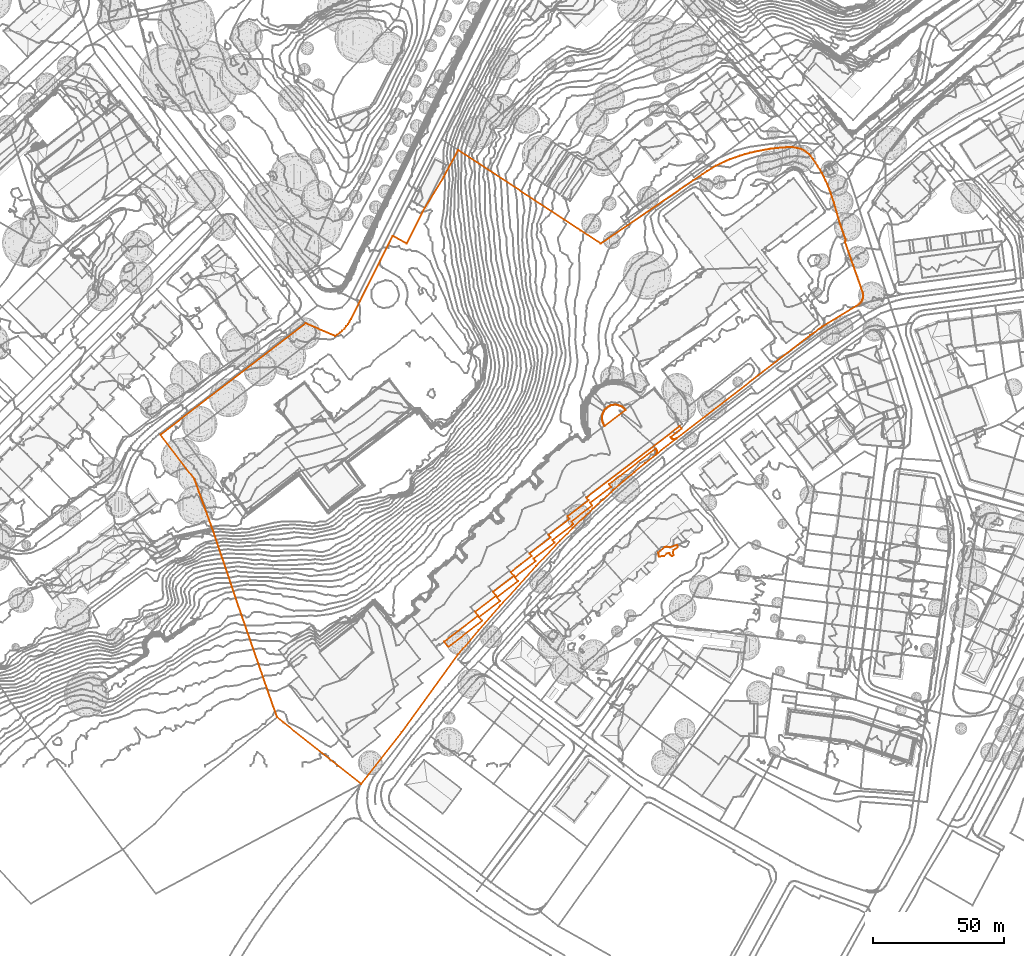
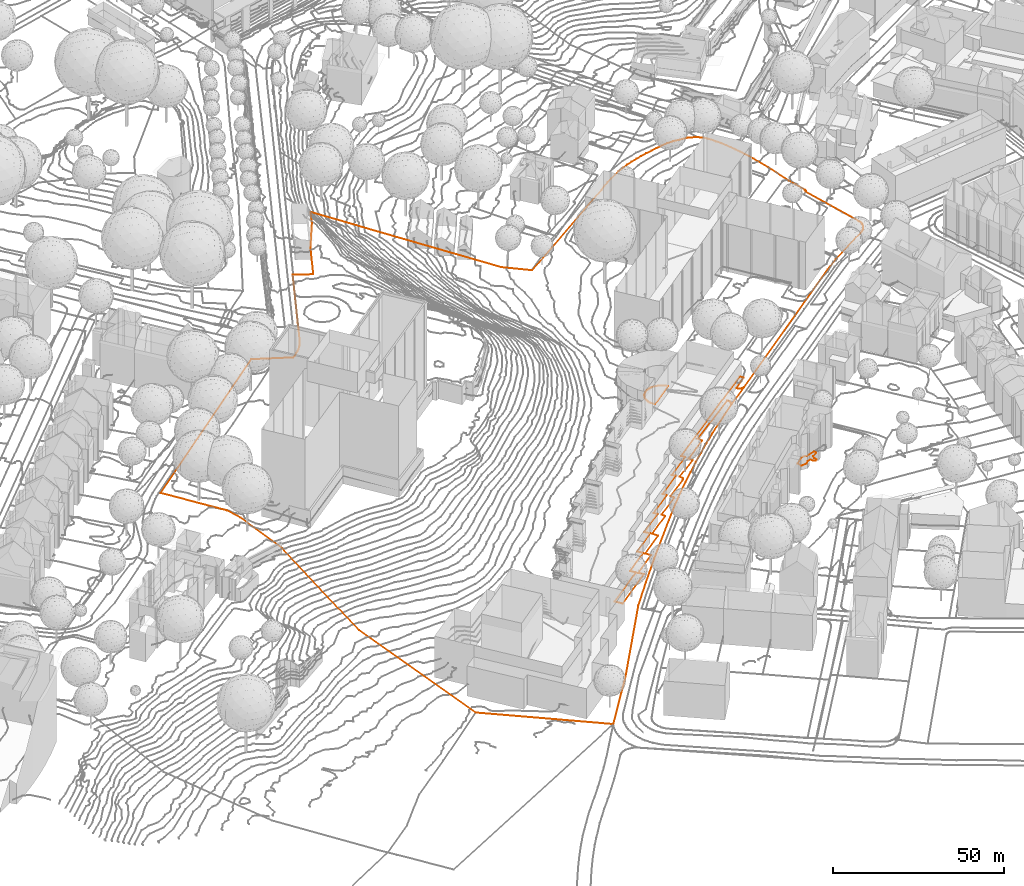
# Not in any storey, part 127 of 477: 2 civil elements, 2 geographic elements.
"""IFC4 model written with IfcOpenShell, lengths in metres."""

import ifcopenshell
import ifcopenshell.guid

model = None  # the IFC model being written
_history = None  # IfcOwnerHistory: only IFC2X3 demands one
_inside = {}  # id of a spatial element -> (the spatial element, [elements in it])
_under = {}  # id of a project, library or spatial element -> (it, [spatial elements below it])
_declared = {}  # id of a project -> (the project, [libraries it declares])
_typed = {}  # id of a type object -> (the type object, [elements of that type])
_made_of = {}  # id of a material, layer set ... -> (it, [elements and type objects made of it])


def new_model(schema):
    """Start an empty IFC model of exactly this schema.

    Asked for "IFC4X3", IfcOpenShell would pick the latest addendum, in which some entities
    have other attributes; the version numbers below select the first issue.
    IFC2X3 requires an IfcOwnerHistory on every rooted entity: one is made here for all.
    """
    global model, _history
    if schema == "IFC4X3":
        model = ifcopenshell.file(schema_version=(4, 3, 0, 0))
    else:
        model = ifcopenshell.file(schema=schema)
    _inside.clear()
    _under.clear()
    _declared.clear()
    _typed.clear()
    _made_of.clear()
    _history = None
    if model.schema == "IFC2X3":
        org = make("IfcOrganization", Name="unknown")
        user = make(
            "IfcPersonAndOrganization",
            ThePerson=make("IfcPerson", FamilyName="unknown"),
            TheOrganization=org,
        )
        app = make(
            "IfcApplication",
            ApplicationDeveloper=org,
            Version="unknown",
            ApplicationFullName="unknown",
            ApplicationIdentifier="unknown",
        )
        _history = make(
            "IfcOwnerHistory",
            OwningUser=user,
            OwningApplication=app,
            ChangeAction="ADDED",
            CreationDate=0,
        )
    return model


def make(cls, **values):
    """One entity of the class cls with the attributes given. An attribute that is None is left unset."""
    return model.create_entity(
        cls, **{name: value for name, value in values.items() if value is not None}
    )


def entity(cls, *values):
    """Any entity or typed value of the class cls, its attributes in the order of the schema. None: left unset."""
    e = model.create_entity(cls)
    for i, value in enumerate(values):
        if value is not None:
            e[i] = value
    return e


def rooted(cls, **values):
    """An entity with a GlobalId (a new one), such as an element, a storey or a relation."""
    return make(cls, GlobalId=ifcopenshell.guid.new(), OwnerHistory=_history, **values)


def si_unit(unit_type, name, prefix=None):
    """IfcSIUnit, for example si_unit("LENGTHUNIT", "METRE", prefix="MILLI")."""
    return make("IfcSIUnit", UnitType=unit_type, Prefix=prefix, Name=name)


def assignment(units):
    """IfcUnitAssignment: the units of a project."""
    return None if units is None else make("IfcUnitAssignment", Units=units)


def point(xyz):
    """IfcCartesianPoint."""
    return None if xyz is None else make("IfcCartesianPoint", Coordinates=xyz)


def direction(xyz):
    """IfcDirection."""
    return None if xyz is None else make("IfcDirection", DirectionRatios=xyz)


def frame(location, z_axis=None, x_axis=None):
    """IfcAxis2Placement3D, a coordinate frame: its origin and axes. An axis left out is left unset."""
    return make(
        "IfcAxis2Placement3D",
        Location=point(location),
        Axis=direction(z_axis),
        RefDirection=direction(x_axis),
    )


def origin_with_axes():
    """The frame at (0, 0, 0) with the z axis (0, 0, 1) and the x axis (1, 0, 0) written out."""
    return frame((0.0, 0.0, 0.0), z_axis=(0.0, 0.0, 1.0), x_axis=(1.0, 0.0, 0.0))


def place(relative_to, where):
    """IfcLocalPlacement: puts the frame where relative to a parent placement (None: the world)."""
    return make(
        "IfcLocalPlacement", PlacementRelTo=relative_to, RelativePlacement=where
    )


def context(
    kind, dimensions, precision=None, world=None, true_north=None, identifier=None
):
    """IfcGeometricRepresentationContext, for example the 3D "Model" context."""
    return make(
        "IfcGeometricRepresentationContext",
        ContextIdentifier=identifier,
        ContextType=kind,
        CoordinateSpaceDimension=dimensions,
        Precision=precision,
        WorldCoordinateSystem=world,
        TrueNorth=true_north,
    )


def subcontext(parent, identifier, kind, view, scale=None):
    """IfcGeometricRepresentationSubContext, for example "Body" below "Model"."""
    return make(
        "IfcGeometricRepresentationSubContext",
        ContextIdentifier=identifier,
        ContextType=kind,
        ParentContext=parent,
        TargetScale=scale,
        TargetView=view,
    )


def project(units=None, contexts=None):
    """IfcProject with its units and contexts."""
    return rooted(
        "IfcProject",
        Name="project",
        RepresentationContexts=contexts,
        UnitsInContext=assignment(units),
    )


def spatial(cls, under=None, at=None, **own):
    """A site, building, storey or space (cls), placed at a placement, below another one or the project."""
    s = rooted(cls, ObjectPlacement=at, **own)
    if under is not None:
        _under.setdefault(under.id(), (under, []))[1].append(s)
    return s


def shape(context_of_items, identifier, shape_type, items):
    """IfcShapeRepresentation: the items that make up one representation, for example the "Body"."""
    return make(
        "IfcShapeRepresentation",
        ContextOfItems=context_of_items,
        RepresentationIdentifier=identifier,
        RepresentationType=shape_type,
        Items=items,
    )


def made_of(thing, what):
    """Note that an element or type object is made of a material, layer set ...; save() writes the relation."""
    if what is not None:
        _made_of.setdefault(what.id(), (what, []))[1].append(thing)
    return thing


def element(
    cls,
    number,
    at=None,
    inside=None,
    cuts=None,
    type_object=None,
    material=None,
    context=None,
    identifier="Body",
    shape_type=None,
    held_by="IfcProductDefinitionShape",
    body=None,
    shapes=None,
    **own,
):
    """One element of the class cls, such as IfcWall. Its Tag is "e" and its number.

    at: its placement. inside: the storey or other place that contains it. cuts: it is an
    opening in that element (IfcRelVoidsElement). A single representation is given by context,
    identifier, shape_type and body (its items); several are given by shapes. held_by: the class
    of the entity that holds the representations. save() writes the other relations.
    """
    e = rooted(cls, Tag="e%d" % number, ObjectPlacement=at, **own)
    if body is not None:
        shapes = [shape(context, identifier, shape_type, body)]
    if shapes is not None:
        e.Representation = make(held_by, Representations=shapes)
    if inside is not None:
        _inside.setdefault(inside.id(), (inside, []))[1].append(e)
    if cuts is not None:
        rooted(
            "IfcRelVoidsElement", RelatingBuildingElement=cuts, RelatedOpeningElement=e
        )
    if type_object is not None:
        _typed.setdefault(type_object.id(), (type_object, []))[1].append(e)
    return made_of(e, material)


def aggregate(whole, parts):
    """IfcRelAggregates: a whole, such as a stair, and the parts it consists of."""
    return rooted("IfcRelAggregates", RelatingObject=whole, RelatedObjects=parts)


def save(model, path):
    """Write the relations noted so far, then the file.

    IfcRelAggregates (storeys below a building ...), IfcRelContainedInSpatialStructure (elements
    in a storey), IfcRelDefinesByType, IfcRelAssociatesMaterial and IfcRelDeclares: one each for
    every whole, place, type object, material and project.
    """
    for whole, parts in _under.values():
        aggregate(whole, parts)
    for where, things in _inside.values():
        rooted(
            "IfcRelContainedInSpatialStructure",
            RelatedElements=things,
            RelatingStructure=where,
        )
    for kind, things in _typed.values():
        rooted("IfcRelDefinesByType", RelatedObjects=things, RelatingType=kind)
    for what, things in _made_of.values():
        rooted("IfcRelAssociatesMaterial", RelatedObjects=things, RelatingMaterial=what)
    for by, libraries in _declared.values():
        rooted("IfcRelDeclares", RelatingContext=by, RelatedDefinitions=libraries)
    model.write(path)


model = new_model("IFC4")

# Units and contexts
model_context = context("Model", 3, precision=1e-05, world=origin_with_axes())
body_context = subcontext(model_context, "Body", "Model", "MODEL_VIEW")
ifc_project = project(units=[si_unit("AREAUNIT", "SQUARE_METRE"), si_unit("LENGTHUNIT", "METRE")], contexts=[model_context])

# Sites
site_1_placement = place(None, origin_with_axes())
site_1 = spatial("IfcSite", under=ifc_project, at=site_1_placement, Name="Topoexport Site")
site_2_placement = place(site_1_placement, origin_with_axes())
site_2 = spatial("IfcSite", under=site_1, at=site_2_placement, Name="TPX_ROADS_OUTLINES")

# Civil elements
civil_element_1_placement = place(site_2_placement, frame((351.9647320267, 131.1737160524, 503.0527385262), z_axis=(0.0, 0.0, 1.0), x_axis=(1.0, 0.0, 0.0)))
element("IfcCivilElement", 1, at=civil_element_1_placement, inside=site_2, Name="Roads Outline 80", ObjectType="ROAD", context=body_context, shape_type="GeometricCurveSet", body=[
    entity("IfcGeometricCurveSet", [entity("IfcIndexedPolyCurve", entity("IfcCartesianPointList3D", [[1.0279999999, -2.8089999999, 0.0247324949], [0.6890000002, -2.3060000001, 0.0155937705], [0.412, -1.7649999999, 0.0225267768], [0.2039999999, -1.1939999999, 0.0287791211], [0.0660000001, -0.6029999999, 0.0142320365], [0.0, 0.0, 0.0], [0.0079999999, 0.608, -0.0115866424], [0.0890000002, 1.209, -0.0160668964], [0.2420000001, 1.797, -0.018853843], [0.4649999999, 2.362, -0.0249605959], [0.7549999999, 2.895, -0.0281065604], [1.1069999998, 3.3899999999, -0.0292756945], [1.5159999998, 3.838, -0.0095554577], [1.977, 4.2339999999, 0.0242441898], [2.4780000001, 4.568, 0.0438988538], [3.0159999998, 4.8400000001, 0.0294436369], [3.5830000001, 5.0460000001, 0.0079538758], [4.1699999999, 5.182, -0.0099582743], [4.77, 5.246, -0.0161130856], [5.372, 5.2379999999, -0.0169455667], [5.9700000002, 5.1580000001, -0.0072150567], [6.5529999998, 5.007, -0.0056597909], [7.1140000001, 4.7860000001, -0.0001931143], [7.645, 4.5, 0.0454421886], [8.1370000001, 4.1529999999, 0.0596217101], [8.585, 3.7490000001, 0.0485487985], [8.98, 3.294, 0.0451027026], [1.0279999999, -2.8089999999, 0.0247324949]]))]),
])
civil_element_2_placement = place(site_2_placement, frame((291.9757320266, 46.2267160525, 503.7351191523), z_axis=(0.0, 0.0, 1.0), x_axis=(1.0, 0.0, 0.0)))
element("IfcCivilElement", 2, at=civil_element_2_placement, inside=site_2, Name="Roads Outline 104", ObjectType="ROAD", context=body_context, shape_type="GeometricCurveSet", body=[
    entity("IfcGeometricCurveSet", [entity("IfcIndexedPolyCurve", entity("IfcCartesianPointList3D", [[0.0, 0.0, 0.0], [12.8870000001, 9.888, -0.0845953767], [11.753, 11.362, -0.1251944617], [19.702, 17.4839999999, -0.1027021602], [18.5530000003, 18.9839999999, -0.1219238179], [26.4879999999, 25.0619999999, -0.0407321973], [25.3330000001, 26.5699999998, -0.1734483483], [33.2740000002, 32.639, -0.116238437], [32.5320000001, 33.608, -0.1608890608], [40.4640000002, 39.692, -0.1558286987], [39.693, 40.7009999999, -0.1293500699], [47.6359999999, 46.7719999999, -0.0994079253], [46.8940000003, 47.7479999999, -0.1396849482], [54.841, 53.8399999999, -0.1768709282], [54.0789999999, 54.8369999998, -0.1716322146], [89.656, 82.111, -0.7123852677], [90.3930000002, 81.1509999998, -0.8647217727], [86.1060000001, 77.8669999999, -1.0135248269], [86.2710000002, 77.628, -1.0374570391], [86.477, 77.4239999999, -1.0633427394], [86.7170000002, 77.2619999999, -1.0849514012], [86.9840000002, 77.1479999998, -1.1091894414], [87.267, 77.085, -1.1332504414], [87.551, 77.075, -1.152440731], [87.8310000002, 77.1169999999, -1.1687430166], [88.1000000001, 77.209, -1.1817367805], [88.3470000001, 77.3489999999, -1.1902760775], [88.452, 77.4279999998, -1.1933397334], [80.554, 71.2679999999, -1.0761683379], [80.7350000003, 71.4879999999, -1.0707658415], [80.8740000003, 71.7379999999, -1.0466651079], [80.966, 72.0079999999, -1.021308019], [81.0079999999, 72.29, -0.9919075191], [80.9879999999, 72.6399999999, -0.9660139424], [80.892, 72.977, -0.9458172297], [80.7239999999, 73.2849999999, -0.9191566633], [80.4920000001, 73.548, -0.8853788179], [62.7090000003, 59.946, -0.1108534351], [63.5130000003, 58.939, -0.4571551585], [55.5670000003, 52.8569999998, -0.3762377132], [56.3289999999, 51.858, -0.6321399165], [48.3790000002, 45.7929999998, -0.0670243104], [49.1070000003, 44.841, -0.391431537], [48.5750000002, 44.3129999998, -0.5326449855], [41.21, 38.713, -0.2571061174], [41.9399999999, 37.7309999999, -0.428303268], [34.0449999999, 31.618, -0.066439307], [34.7680000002, 30.632, -0.1371816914], [26.858, 24.575, -0.04259627], [28.0049999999, 23.0799999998, -0.2764847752], [20.0860000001, 16.9889999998, -0.1421320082], [21.2250000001, 15.483, -0.2967504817], [13.301, 9.4069999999, -0.1053891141], [14.443, 7.9249999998, -0.0848576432], [1.5440000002, -1.9780000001, -0.0447230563], [0.0, 0.0, 0.0]]))]),
])

# Site
site_3_placement = place(site_1_placement, origin_with_axes())
site_3 = spatial("IfcSite", under=site_1, at=site_3_placement, Name="TPX_CADASTRES")

# Geographic element
geographic_element_1_placement = place(site_3_placement, frame((183.8607320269, 125.0317160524, 532.6188777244), z_axis=(0.0, 0.0, 1.0), x_axis=(1.0, 0.0, 0.0)))
element("IfcGeographicElement", 3, at=geographic_element_1_placement, inside=site_3, Name="Cadastre 151", PredefinedType="NOTDEFINED", context=body_context, shape_type="GeometricCurveSet", body=[
    entity("IfcGeometricCurveSet", [entity("IfcIndexedPolyCurve", entity("IfcCartesianPointList3D", [[0.0, 0.0, 0.0], [55.1969999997, 42.405, 2.7774543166], [66.5949999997, 37.5929999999, 2.3440723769], [67.5279999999, 38.21, 2.3671624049], [68.4159999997, 38.8899999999, 2.4118313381], [69.2539999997, 39.6310000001, 2.4209771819], [70.0379999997, 40.4280000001, 2.4228548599], [70.7649999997, 41.2779999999, 2.4330873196], [71.4299999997, 42.1780000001, 2.44840779], [72.031, 43.121, 2.4554586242], [72.5639999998, 44.1040000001, 2.4549182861], [88.395, 75.6340000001, 1.2163998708], [88.54, 75.558, 1.2037807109], [93.7549999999, 72.8489999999, 1.1952307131], [100.6029999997, 86.3759999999, 0.332293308], [107.8679999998, 98.098, -0.6945715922], [113.3169999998, 108.3689999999, -4.9568861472], [160.0329999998, 77.7690000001, -22.4598241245], [167.5779999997, 72.827, -23.1959552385], [167.7039999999, 72.7439999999, -23.2219151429], [206.4249999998, 99.273, -24.1142951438], [208.088, 100.3759999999, -23.8949289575], [209.7930000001, 101.415, -23.7858072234], [211.5359999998, 102.3870000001, -23.6896008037], [213.3159999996, 103.2919999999, -23.5416329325], [215.128, 104.1270000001, -23.3780416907], [216.9720000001, 104.892, -23.2572386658], [218.8419999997, 105.5989999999, -23.2490590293], [220.7349999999, 106.243, -23.2633790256], [222.648, 106.824, -23.2568673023], [224.5789999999, 107.3400000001, -23.2461066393], [226.5269999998, 107.7919999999, -23.2492783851], [228.4879999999, 108.179, -23.2425255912], [230.449, 108.5600000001, -23.1957641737], [232.4210000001, 108.875, -23.2178202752], [234.4029999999, 109.125, -23.195497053], [236.392, 109.308, -23.3244609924], [238.3859999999, 109.425, -23.5913358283], [240.3829999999, 109.476, -23.8025434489], [241.3939999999, 109.3670000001, -23.8717958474], [242.3939999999, 109.1839999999, -23.9852667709], [243.378, 108.929, -24.1011350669], [244.341, 108.6040000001, -24.2235035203], [245.0439999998, 108.2220000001, -24.3065747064], [245.7179999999, 107.791, -24.4064345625], [246.358, 107.311, -24.508766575], [246.9619999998, 106.7860000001, -24.6314945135], [247.5260000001, 106.219, -24.7518655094], [248.4899999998, 104.9409999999, -24.9372153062], [249.412, 103.632, -25.1231214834], [250.2909999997, 102.2930000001, -25.3623048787], [251.1259999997, 100.9269999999, -25.555619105], [251.9169999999, 99.5349999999, -25.7510652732], [252.6639999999, 98.1129999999, -25.9449448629], [253.3649999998, 96.6669999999, -26.1426727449], [254.017, 95.1980000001, -26.3081470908], [254.622, 93.71, -26.4920488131], [255.1769999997, 92.202, -26.6339614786], [256.4789999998, 88.3959999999, -26.9707403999], [258.9359999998, 79.899, -27.6311545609], [260.8539999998, 74.487, -28.0570502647], [260.9109999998, 74.2309999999, -28.0994575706], [260.8989999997, 73.969, -28.1255553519], [260.8189999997, 73.719, -28.1450785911], [260.6769999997, 73.4979999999, -28.1642204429], [267.409, 54.3189999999, -29.304282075], [267.557, 53.8, -29.3000931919], [267.6340000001, 53.2660000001, -29.3332175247], [267.6379999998, 52.727, -29.3761263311], [267.5699999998, 52.192, -29.4519200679], [267.4299999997, 51.6710000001, -29.530579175], [267.2220000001, 51.1739999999, -29.5528309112], [266.9479999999, 50.709, -29.5566279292], [266.6149999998, 50.2849999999, -29.5639932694], [266.227, 49.9099999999, -29.5845837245], [265.7930000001, 49.5900000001, -29.6209658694], [251.9890000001, 41.1270000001, -29.7158410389], [247.3879999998, 37.834, -29.7268484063], [196.5669999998, -1.3770000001, -30.0770983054], [188.6689999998, -7.537, -29.9599269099], [184.5460000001, -10.844, -29.9891080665], [180.4699999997, -14.209, -29.9061742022], [176.4409999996, -17.6300000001, -29.8539945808], [172.46, -21.1070000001, -29.8079575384], [168.5249999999, -24.6410000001, -29.7520303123], [164.6399999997, -28.2290000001, -29.6999076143], [160.8049999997, -31.871, -29.5981832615], [157.0209999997, -35.5660000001, -29.5848129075], [152.1469999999, -40.317, -29.5248338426], [143.0079999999, -50.095, -29.4095837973], [129.3869999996, -65.1310000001, -29.2694864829], [121.2289999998, -74.4070000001, -29.1600967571], [113.2379999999, -83.7849999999, -29.0855188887], [91.9269999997, -113.2609999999, -28.9286933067], [76.3709999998, -132.9920000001, -28.7323749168], [46.8259999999, -109.628, -28.7389917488], [44.4369999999, -107.6189999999, -28.8168681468], [29.662, -65.0700000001, -20.0209640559], [20.0449999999, -36.48, -4.5820362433], [14.6170000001, -21.541, -0.8836501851], [12.8969999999, -16.791, -0.5825653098], [0.0, 0.0, 0.0]]))]),
])

# Site
site_4_placement = place(site_1_placement, origin_with_axes())
site_4 = spatial("IfcSite", under=site_1, at=site_4_placement, Name="TPX_CONTOUR_LINES")

# Geographic element
geographic_element_2_placement = place(site_4_placement, frame((373.4532622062, 80.1707160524, 504.0), z_axis=(0.0, 0.0, 1.0), x_axis=(1.0, 0.0, 0.0)))
element("IfcGeographicElement", 4, at=geographic_element_2_placement, inside=site_4, Name="Contour Line 504.0 m", PredefinedType="NOTDEFINED", context=body_context, shape_type="GeometricCurveSet", body=[
    entity("IfcGeometricCurveSet", [entity("IfcIndexedPolyCurve", entity("IfcCartesianPointList3D", [[5.8871009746, -1.0, 0.0], [5.2244698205, -1.4264935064, 0.0], [4.6025001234, -1.0, 0.0], [4.2244698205, -0.1846405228, 0.0], [3.2244698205, -0.352862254, 0.0], [2.2244698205, -1.3679453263, 0.0], [0.2244698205, -1.5198863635, 0.0], [0.0, 0.0, 0.0], [2.3734059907, 2.0, 0.0], [3.2244698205, 2.2284988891, 0.0], [4.2244698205, 1.9763880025, 0.0], [7.2244698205, 2.9149484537, 0.0], [7.4332319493, 2.0, 0.0], [5.8279062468, 1.0, 0.0], [5.5421641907, 0.0, 0.0], [5.8871009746, -1.0, 0.0]]))]),
])

save(model, "model.ifc")
